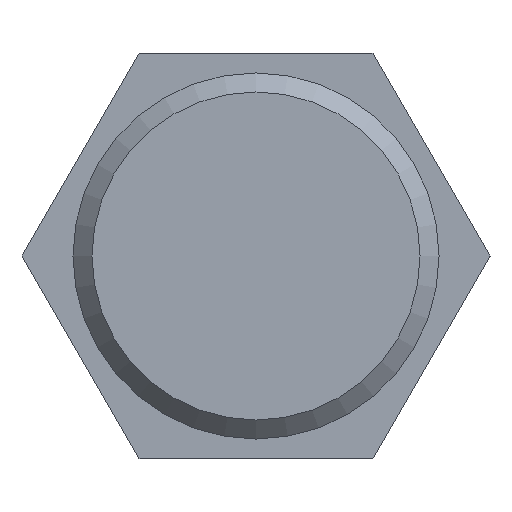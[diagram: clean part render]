
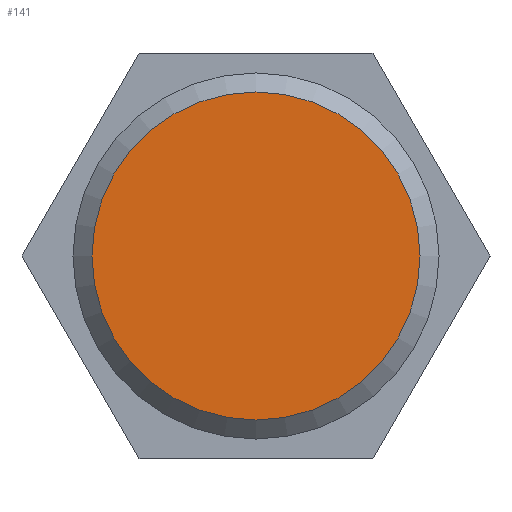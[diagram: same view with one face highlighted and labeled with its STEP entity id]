
A CAD part, left-side view. The second image highlights one B-rep face of the part: STEP entity #141.
In plain terms, the highlighted planar face has unit normal (-1, 0, 0).
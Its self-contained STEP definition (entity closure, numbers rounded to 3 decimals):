
#110=CARTESIAN_POINT('',(0.,12.95,0.));
#111=VERTEX_POINT('',#110);
#112=CARTESIAN_POINT('',(0.,0.0,0.0));
#113=DIRECTION('',(1.0,0.0,0.0));
#114=DIRECTION('',(0.0,-1.0,0.0));
#115=AXIS2_PLACEMENT_3D('',#112,#113,#114);
#116=CIRCLE('',#115,12.95);
#117=EDGE_CURVE('',#111,#111,#116,.T.);
#133=CARTESIAN_POINT('',(0.,7.225,0.0));
#134=DIRECTION('',(-1.0,0.0,0.0));
#135=DIRECTION('',(0.0,0.0,1.0));
#136=AXIS2_PLACEMENT_3D('',#133,#134,#135);
#137=PLANE('',#136);
#138=ORIENTED_EDGE('',*,*,#117,.F.);
#139=EDGE_LOOP('',(#138));
#140=FACE_OUTER_BOUND('',#139,.T.);
#141=ADVANCED_FACE('',(#140),#137,.T.);
